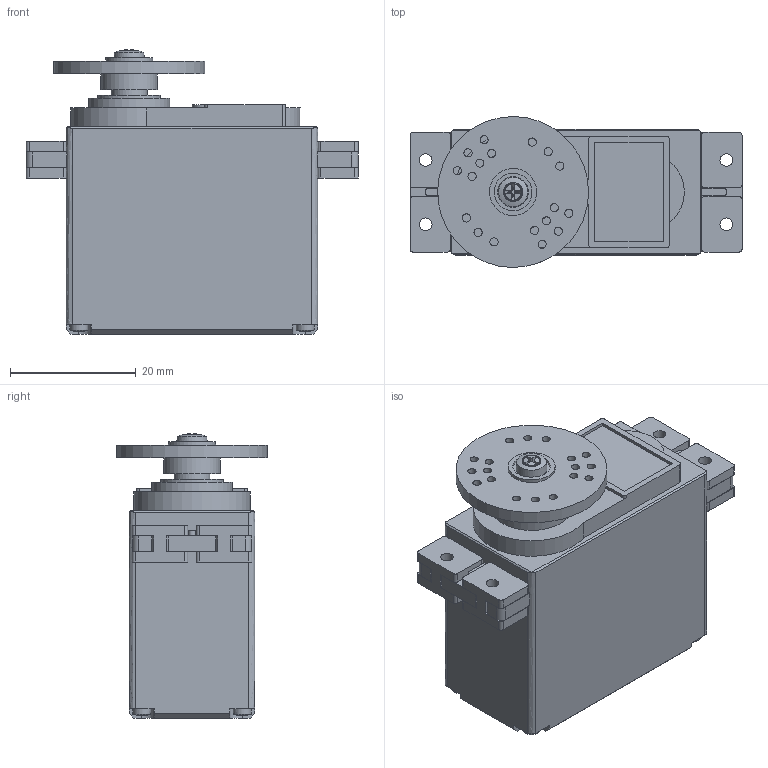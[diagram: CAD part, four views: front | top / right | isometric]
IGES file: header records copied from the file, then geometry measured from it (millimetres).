
Global section: file name: No Iges File Name specified; native system: AutoDesk Inventor R6.0; preprocessor: AutoDesk Inventor Iges Exporter R6.0; author: No Author specified; organization: No Organization specified; date: 20060116.075527; units: millimetre
Bounding box: 52.8 x 24 x 45.24 mm (x, y, z)
Surface area: 9697.8 mm2 (no closed solid volume)
Topology: 0 solids, 0 shells, 380 faces, 1945 edges, 1851 vertices
Faces by surface type: revolution 185, plane 156, bspline 39
